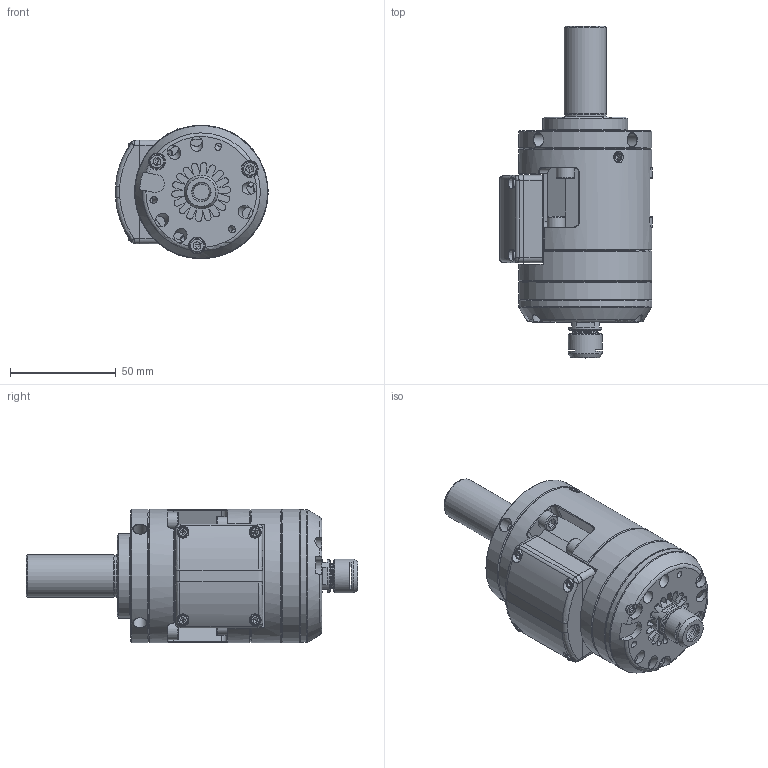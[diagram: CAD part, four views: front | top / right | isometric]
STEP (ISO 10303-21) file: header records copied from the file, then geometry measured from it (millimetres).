
FILE_DESCRIPTION (( 'STEP AP214' ), '1' );
FILE_NAME ('TJS GJET V4 ST20.STEP', '2025-06-16T09:52:47', ( 'pc' ), ( '' ), 'SwSTEP 2.0', 'SolidWorks 2024', '' );
FILE_SCHEMA (( 'AUTOMOTIVE_DESIGN' ));
Length unit declared in the file: millimetre
Products named in the file (1): TJS GJET V4 ST20
Bounding box: 72.25 x 156.8 x 63 mm (x, y, z)
Volume: 172299.6 mm3; surface area: 89235.4 mm2
Topology: 28 solids, 28 shells, 1396 faces, 3411 edges, 2102 vertices
Faces by surface type: plane 659, cylinder 348, cone 238, torus 97, bspline 54
Full cylindrical faces by diameter (mm): 2.5 x6, 3 x3, 3.3 x6, 4.2 x11, 4.3 x2, 4.5 x5, 5 x13, 5.5 x3, 5.8 x3, 6 x11, 6.2 x3, 6.4 x4, 6.5 x1, 7 x3, 7.5 x1, 7.65 x1, 7.8 x3, 8.5 x6, 10 x1, 11.21 x1, 11.3 x1, 11.8 x1, 12 x1, 12.2 x1, 12.3 x1, 13 x1, 13.2 x1, 13.5 x1, 15.5 x1, 16 x1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
Entity records: 48437 total; most frequent: CARTESIAN_POINT 17346, DIRECTION 6356, ORIENTED_EDGE 6056, EDGE_CURVE 3028, AXIS2_PLACEMENT_3D 2412, VERTEX_POINT 2008, EDGE_LOOP 1810, FACE_OUTER_BOUND 1559
